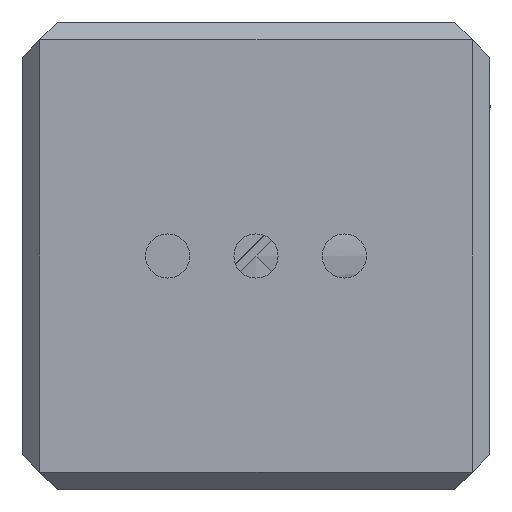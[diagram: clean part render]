
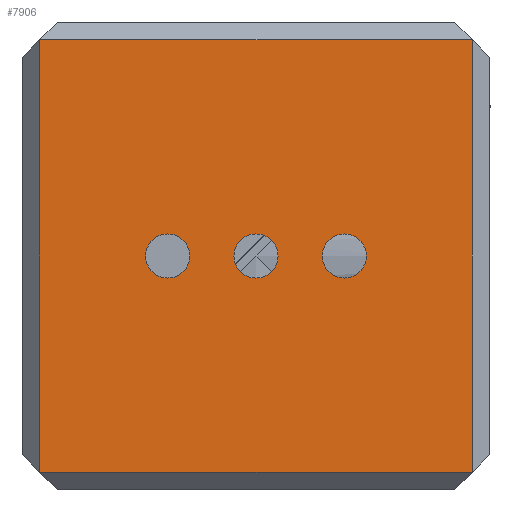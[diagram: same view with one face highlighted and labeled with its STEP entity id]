
A CAD part, front view. The second image highlights one B-rep face of the part: STEP entity #7906.
In plain terms, the highlighted planar face has unit normal (0, -1, 0).
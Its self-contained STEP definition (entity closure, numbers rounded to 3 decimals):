
#266 = DIRECTION ( 'NONE',  ( 0., 0., -1. ) ) ;
#322 = CARTESIAN_POINT ( 'NONE',  ( 10., 0., 2.5 ) ) ;
#495 = VERTEX_POINT ( 'NONE', #14049 ) ;
#697 = DIRECTION ( 'NONE',  ( 0., -1., 0. ) ) ;
#789 = ORIENTED_EDGE ( 'NONE', *, *, #2735, .T. ) ;
#863 = CARTESIAN_POINT ( 'NONE',  ( 24.5, 0., 24.5 ) ) ;
#1008 = DIRECTION ( 'NONE',  ( 0., 0., -1. ) ) ;
#1072 = CARTESIAN_POINT ( 'NONE',  ( -10., 0., 0. ) ) ;
#1083 = FACE_BOUND ( 'NONE', #10318, .T. ) ;
#1121 = AXIS2_PLACEMENT_3D ( 'NONE', #4732, #10840, #4882 ) ;
#1159 = ORIENTED_EDGE ( 'NONE', *, *, #3886, .F. ) ;
#1410 = DIRECTION ( 'NONE',  ( 0., -1., 0. ) ) ;
#1806 = EDGE_CURVE ( 'NONE', #6110, #10841, #12002, .T. ) ;
#1810 = VECTOR ( 'NONE', #9709, 1000. ) ;
#2331 = AXIS2_PLACEMENT_3D ( 'NONE', #1072, #4699, #9469 ) ;
#2560 = ORIENTED_EDGE ( 'NONE', *, *, #12832, .F. ) ;
#2735 = EDGE_CURVE ( 'NONE', #12893, #14486, #10963, .T. ) ;
#2899 = ORIENTED_EDGE ( 'NONE', *, *, #6208, .F. ) ;
#2973 = CARTESIAN_POINT ( 'NONE',  ( 10., 0., 0. ) ) ;
#3198 = VECTOR ( 'NONE', #11589, 1000. ) ;
#3220 = AXIS2_PLACEMENT_3D ( 'NONE', #8784, #13558, #1008 ) ;
#3501 = AXIS2_PLACEMENT_3D ( 'NONE', #2973, #697, #10110 ) ;
#3527 = FACE_BOUND ( 'NONE', #9170, .T. ) ;
#3886 = EDGE_CURVE ( 'NONE', #495, #12409, #4107, .T. ) ;
#3899 = CIRCLE ( 'NONE', #1121, 2.5 ) ;
#4058 = VERTEX_POINT ( 'NONE', #4351 ) ;
#4107 = CIRCLE ( 'NONE', #2331, 2.5 ) ;
#4316 = CARTESIAN_POINT ( 'NONE',  ( 24.5, 0., -24.5 ) ) ;
#4348 = CARTESIAN_POINT ( 'NONE',  ( 0., 0., 2.5 ) ) ;
#4351 = CARTESIAN_POINT ( 'NONE',  ( -24.5, 0., 24.5 ) ) ;
#4530 = EDGE_LOOP ( 'NONE', ( #1159, #10631 ) ) ;
#4671 = DIRECTION ( 'NONE',  ( -1., 0., 0. ) ) ;
#4699 = DIRECTION ( 'NONE',  ( 0., -1., 0. ) ) ;
#4732 = CARTESIAN_POINT ( 'NONE',  ( 0., 0., 0. ) ) ;
#4882 = DIRECTION ( 'NONE',  ( 0., 0., -1. ) ) ;
#5801 = EDGE_CURVE ( 'NONE', #14486, #4058, #15362, .T. ) ;
#6110 = VERTEX_POINT ( 'NONE', #4348 ) ;
#6208 = EDGE_CURVE ( 'NONE', #10841, #6110, #3899, .T. ) ;
#6257 = CARTESIAN_POINT ( 'NONE',  ( 24.5, 0., 26.5 ) ) ;
#6259 = EDGE_CURVE ( 'NONE', #4058, #6963, #11858, .T. ) ;
#6314 = EDGE_LOOP ( 'NONE', ( #789, #12329, #8634, #13290 ) ) ;
#6664 = ORIENTED_EDGE ( 'NONE', *, *, #1806, .F. ) ;
#6963 = VERTEX_POINT ( 'NONE', #7506 ) ;
#7377 = CARTESIAN_POINT ( 'NONE',  ( -10., 0., 0. ) ) ;
#7506 = CARTESIAN_POINT ( 'NONE',  ( -24.5, 0., -24.5 ) ) ;
#7906 = ADVANCED_FACE ( 'NONE', ( #1083, #3527, #8295, #10657 ), #15404, .T. ) ;
#8268 = CARTESIAN_POINT ( 'NONE',  ( -10., 0., 2.5 ) ) ;
#8295 = FACE_BOUND ( 'NONE', #4530, .T. ) ;
#8478 = ORIENTED_EDGE ( 'NONE', *, *, #12176, .F. ) ;
#8500 = VERTEX_POINT ( 'NONE', #322 ) ;
#8634 = ORIENTED_EDGE ( 'NONE', *, *, #6259, .T. ) ;
#8769 = EDGE_CURVE ( 'NONE', #6963, #12893, #11444, .T. ) ;
#8784 = CARTESIAN_POINT ( 'NONE',  ( 10., 0., 0. ) ) ;
#8936 = AXIS2_PLACEMENT_3D ( 'NONE', #7377, #1410, #12464 ) ;
#9170 = EDGE_LOOP ( 'NONE', ( #2560, #8478 ) ) ;
#9387 = VECTOR ( 'NONE', #266, 1000. ) ;
#9390 = CARTESIAN_POINT ( 'NONE',  ( 26.5, 0., -24.5 ) ) ;
#9469 = DIRECTION ( 'NONE',  ( 0., 0., -1. ) ) ;
#9480 = CARTESIAN_POINT ( 'NONE',  ( 0., 0., 0. ) ) ;
#9647 = CARTESIAN_POINT ( 'NONE',  ( 10., 0., -2.5 ) ) ;
#9676 = CARTESIAN_POINT ( 'NONE',  ( -24.5, 0., -26.5 ) ) ;
#9709 = DIRECTION ( 'NONE',  ( 0., 0., 1. ) ) ;
#9996 = EDGE_CURVE ( 'NONE', #12409, #495, #12471, .T. ) ;
#10021 = CIRCLE ( 'NONE', #3501, 2.5 ) ;
#10110 = DIRECTION ( 'NONE',  ( 0., 0., -1. ) ) ;
#10318 = EDGE_LOOP ( 'NONE', ( #2899, #6664 ) ) ;
#10631 = ORIENTED_EDGE ( 'NONE', *, *, #9996, .F. ) ;
#10657 = FACE_OUTER_BOUND ( 'NONE', #6314, .T. ) ;
#10688 = AXIS2_PLACEMENT_3D ( 'NONE', #9480, #14235, #13069 ) ;
#10840 = DIRECTION ( 'NONE',  ( 0., -1., 0. ) ) ;
#10841 = VERTEX_POINT ( 'NONE', #14882 ) ;
#10963 = LINE ( 'NONE', #6257, #1810 ) ;
#11070 = DIRECTION ( 'NONE',  ( 0., -1., 0. ) ) ;
#11444 = LINE ( 'NONE', #9390, #3198 ) ;
#11512 = CARTESIAN_POINT ( 'NONE',  ( 0., 0., 0. ) ) ;
#11589 = DIRECTION ( 'NONE',  ( 1., 0., 0. ) ) ;
#11858 = LINE ( 'NONE', #9676, #9387 ) ;
#11861 = CARTESIAN_POINT ( 'NONE',  ( -26.5, 0., 24.5 ) ) ;
#12002 = CIRCLE ( 'NONE', #12253, 2.5 ) ;
#12176 = EDGE_CURVE ( 'NONE', #8500, #14579, #12738, .T. ) ;
#12253 = AXIS2_PLACEMENT_3D ( 'NONE', #11512, #11070, #13568 ) ;
#12329 = ORIENTED_EDGE ( 'NONE', *, *, #5801, .T. ) ;
#12409 = VERTEX_POINT ( 'NONE', #8268 ) ;
#12464 = DIRECTION ( 'NONE',  ( 0., 0., -1. ) ) ;
#12471 = CIRCLE ( 'NONE', #8936, 2.5 ) ;
#12738 = CIRCLE ( 'NONE', #3220, 2.5 ) ;
#12832 = EDGE_CURVE ( 'NONE', #14579, #8500, #10021, .T. ) ;
#12893 = VERTEX_POINT ( 'NONE', #4316 ) ;
#13069 = DIRECTION ( 'NONE',  ( 0., 0., -1. ) ) ;
#13290 = ORIENTED_EDGE ( 'NONE', *, *, #8769, .T. ) ;
#13558 = DIRECTION ( 'NONE',  ( 0., -1., 0. ) ) ;
#13568 = DIRECTION ( 'NONE',  ( 0., 0., -1. ) ) ;
#14049 = CARTESIAN_POINT ( 'NONE',  ( -10., 0., -2.5 ) ) ;
#14235 = DIRECTION ( 'NONE',  ( 0., -1., 0. ) ) ;
#14486 = VERTEX_POINT ( 'NONE', #863 ) ;
#14579 = VERTEX_POINT ( 'NONE', #9647 ) ;
#14882 = CARTESIAN_POINT ( 'NONE',  ( 0., 0., -2.5 ) ) ;
#15358 = VECTOR ( 'NONE', #4671, 1000. ) ;
#15362 = LINE ( 'NONE', #11861, #15358 ) ;
#15404 = PLANE ( 'NONE',  #10688 ) ;
